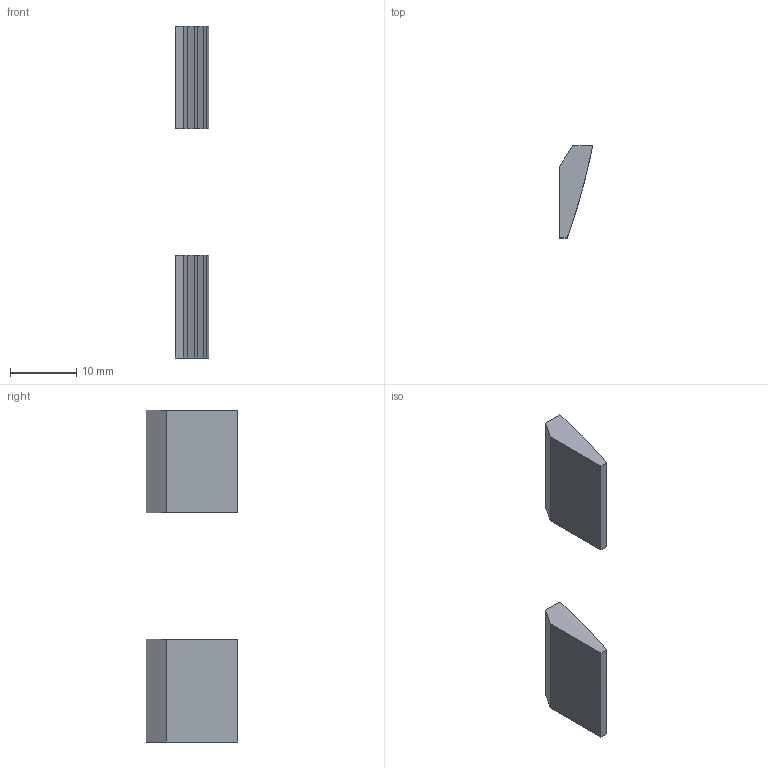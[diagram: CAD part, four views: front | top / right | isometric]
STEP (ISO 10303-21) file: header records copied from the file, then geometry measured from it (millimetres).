
FILE_DESCRIPTION(('Open CASCADE Model'),'2;1');
FILE_NAME('Open CASCADE Shape Model','2026-10-16T00:29:52',('Author'),( 'Open CASCADE'),'Open CASCADE STEP processor 7.9','Open CASCADE 7.9' ,'Unknown');
FILE_SCHEMA(('AUTOMOTIVE_DESIGN { 1 0 10303 214 1 1 1 1 }'));
Length unit declared in the file: millimetre
Products named in the file (3): Open CASCADE STEP translator 7.9 12; Open CASCADE STEP translator 7.9 12.1; Open CASCADE STEP translator 7.9 12.2
Assembly tree (2 placements, depth 2):
  Open CASCADE STEP translator 7.9 12
    Open CASCADE STEP translator 7.9 12.1
    Open CASCADE STEP translator 7.9 12.2
Bounding box: 5 x 13.8 x 50 mm (x, y, z)
Volume: 1302.7 mm3; surface area: 1188.5 mm2
Topology: 2 solids, 2 shells, 28 faces, 72 edges, 48 vertices
Faces by surface type: plane 28
Entity records: 1768 total; most frequent: CARTESIAN_POINT 343, DIRECTION 230, LINE 168, VECTOR 168, ORIENTED_EDGE 144, PCURVE 144, DEFINITIONAL_REPRESENTATION 144, EDGE_CURVE 72
